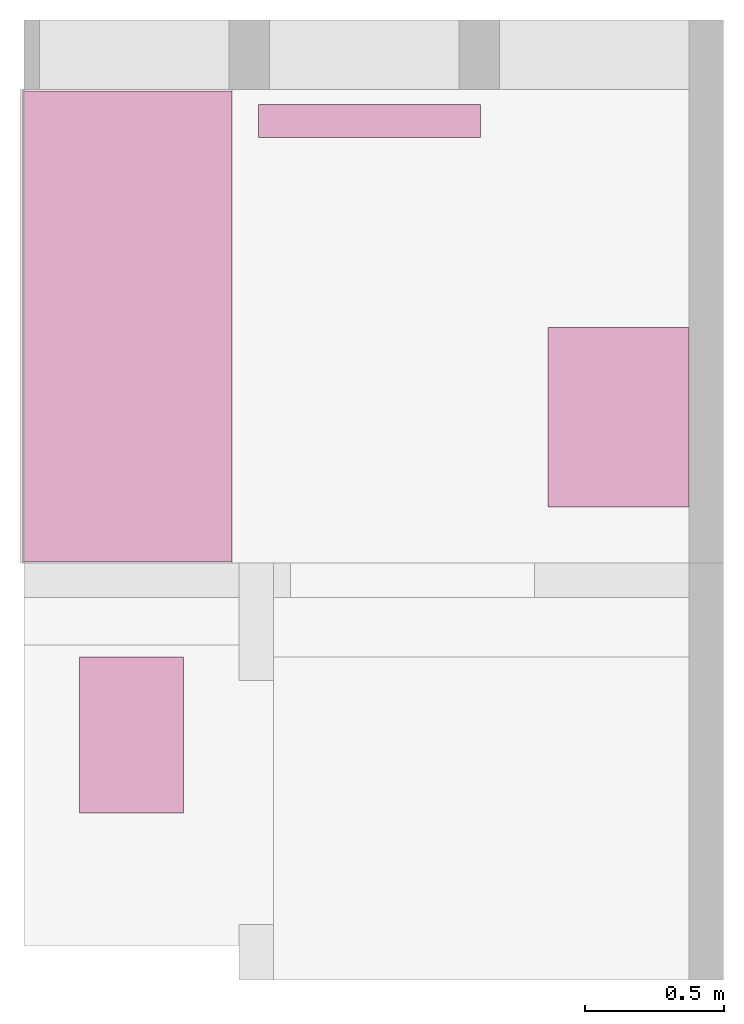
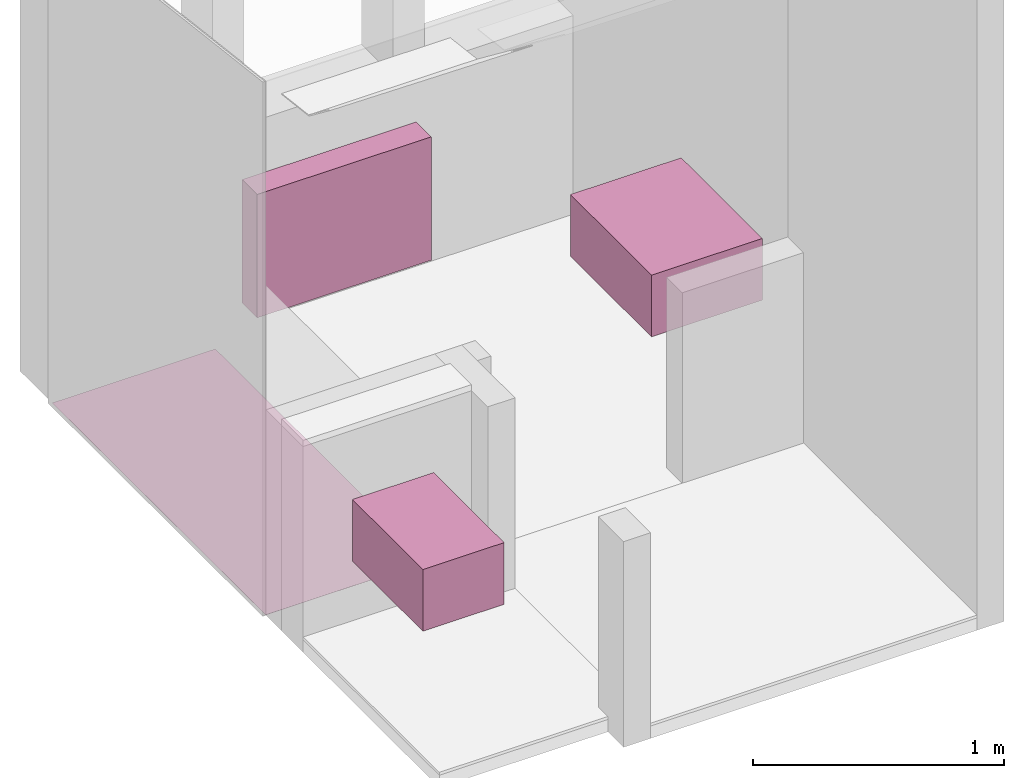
# One storey, part 3 of 4: 4 furniture elements.
"""IFC4 building model written with IfcOpenShell, lengths in metres."""

from ifc_helpers import new_model, entity, si_unit, converted_unit, derived_unit, frame, origin, place, context, subcontext, project, spatial, faceted_brep, element, save


model = new_model("IFC4")

# Units and contexts
model_context = context("Model", 3, precision=1e-05, world=origin())
body_context = subcontext(model_context, "Body", "Model", "MODEL_VIEW")
ifc_project = project(units=[si_unit("LENGTHUNIT", "METRE"), si_unit("AREAUNIT", "SQUARE_METRE"), si_unit("VOLUMEUNIT", "CUBIC_METRE"), si_unit("MASSUNIT", "GRAM", prefix="KILO"), converted_unit("PLANEANGLEUNIT", "DEGREE", entity("IfcPlaneAngleMeasure", 0.0174532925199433), si_unit("PLANEANGLEUNIT", "RADIAN"), dimensions=[0, 0, 0, 0, 0, 0, 0]), derived_unit("THERMALTRANSMITTANCEUNIT", [(si_unit("POWERUNIT", "WATT"), 1), (si_unit("THERMODYNAMICTEMPERATUREUNIT", "KELVIN"), -1), (si_unit("LENGTHUNIT", "METRE"), -2)]), derived_unit("VOLUMETRICFLOWRATEUNIT", [(si_unit("LENGTHUNIT", "METRE"), 3), (converted_unit("TIMEUNIT", "hour", entity("IfcTimeMeasure", 3600.0), si_unit("TIMEUNIT", "SECOND"), dimensions=[0, 0, 1, 0, 0, 0, 0]), -1), (si_unit("LENGTHUNIT", "METRE"), -1)])], contexts=[model_context])

# Site, building, storey
site_placement = place(None, origin())
site = spatial("IfcSite", under=ifc_project, at=site_placement, Name="Liegenschaft", CompositionType="ELEMENT")
building_placement = place(site_placement, origin())
building = spatial("IfcBuilding", under=site, at=building_placement, Name="Gebäude", CompositionType="ELEMENT")
storey_placement = place(building_placement, origin())
storey = spatial("IfcBuildingStorey", under=building, at=storey_placement, Name="Geschoss 01", CompositionType="ELEMENT", Elevation=0.0)

# Furniture
furniture_1_placement = place(storey_placement, frame((191.397586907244, 1.95027497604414, 0.0)))
element("IfcFurniture", 1, at=furniture_1_placement, inside=storey, context=body_context, shape_type="Brep", body=[
    faceted_brep([(0.75, 1.7, 0.00100000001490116), (0.750000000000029, 0.0, 0.00100000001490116), (0.0, 0.0, 0.00100000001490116), (0.0, 1.7, 0.00100000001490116), (0.75, 1.7, 0.0), (0.750000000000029, 0.0, 0.0), (0.0, 0.0, 0.0), (0.0, 1.7, 0.0)], [[[0, 1, 2, 3]], [[4, 5, 1, 0]], [[5, 6, 2, 1]], [[6, 7, 3, 2]], [[7, 4, 0, 3]], [[4, 7, 6, 5]]], orient=[[False], [False], [False], [False], [False], [False]]),
])
furniture_2_placement = place(storey_placement, frame((191.598142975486, 1.04547744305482, 0.4)))
element("IfcFurniture", 2, at=furniture_2_placement, inside=storey, context=body_context, shape_type="Brep", body=[
    faceted_brep([(0.373887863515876, 0.56194124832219, 0.0), (0.0, 0.56194124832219, 0.0), (0.0, 0.0, 0.0), (0.373887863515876, 0.0, 0.0), (0.0, 0.56194124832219, 0.3), (0.373887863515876, 0.56194124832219, 0.3), (0.373887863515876, 0.0, 0.3), (0.0, 0.0, 0.3)], [[[0, 1, 2, 3]], [[4, 5, 6, 7]], [[1, 0, 5, 4]], [[2, 1, 4, 7]], [[3, 2, 7, 6]], [[0, 3, 6, 5]]], orient=[[False], [False], [False], [False], [False], [False]]),
])
furniture_3_placement = place(storey_placement, frame((193.287586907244, 2.15013239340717, 0.57)))
element("IfcFurniture", 3, at=furniture_3_placement, inside=storey, context=body_context, shape_type="Brep", body=[
    faceted_brep([(0.0, 0.0, 0.0), (0.51, 0.0, 0.0), (0.51, 0.646767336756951, 0.0), (0.0, 0.646767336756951, 0.0), (0.51, 0.0, 0.3), (0.0, 0.0, 0.3), (0.0, 0.646767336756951, 0.3), (0.51, 0.646767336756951, 0.3)], [[[0, 1, 2, 3]], [[4, 5, 6, 7]], [[1, 0, 5, 4]], [[2, 1, 4, 7]], [[3, 2, 7, 6]], [[0, 3, 6, 5]]], orient=[[False], [False], [False], [False], [False], [False]]),
])
furniture_4_placement = place(storey_placement, frame((192.243392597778, 3.48250435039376, 0.22)))
element("IfcFurniture", 4, at=furniture_4_placement, inside=storey, context=body_context, shape_type="Brep", body=[
    faceted_brep([(0.800415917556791, 0.12, 0.6), (0.800415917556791, 0.0, 0.6), (0.0, 0.0, 0.6), (0.0, 0.12, 0.6), (0.800415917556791, 0.0, 0.0), (0.800415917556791, 0.12, 0.0), (0.0, 0.0, 0.0), (0.0, 0.12, 0.0)], [[[0, 1, 2, 3]], [[4, 1, 0, 5]], [[6, 2, 1, 4]], [[6, 7, 3, 2]], [[5, 0, 3, 7]], [[4, 5, 7, 6]]], orient=[[False], [False], [False], [False], [False], [False]]),
])

save(model, "model.ifc")
